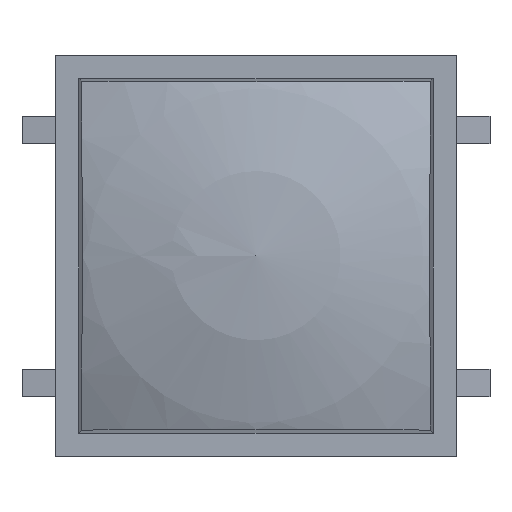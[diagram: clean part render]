
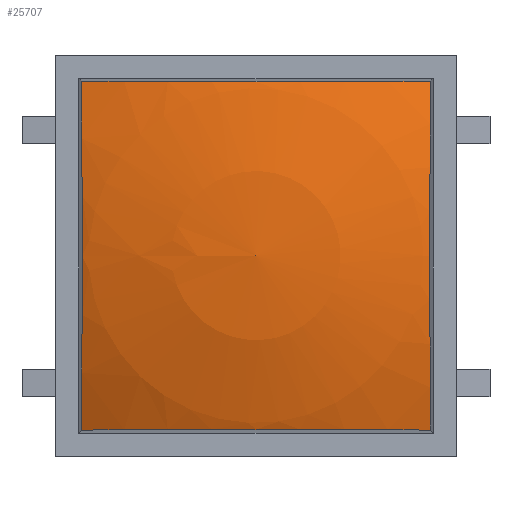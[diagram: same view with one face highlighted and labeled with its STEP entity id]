
A CAD part, top view. The second image highlights one B-rep face of the part: STEP entity #25707.
In plain terms, the highlighted spherical face has radius 17.5 mm.
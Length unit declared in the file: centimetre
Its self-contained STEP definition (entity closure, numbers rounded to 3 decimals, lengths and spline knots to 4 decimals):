
#323=SPHERICAL_SURFACE($,#27105,1.75);
#1315=FACE_OUTER_BOUND($,#2653,.T.);
#2653=EDGE_LOOP($,(#16099,#16100,#16101,#16102));
#4049=CIRCLE($,#27026,1.6609);
#4079=CIRCLE($,#27100,1.6609);
#4080=CIRCLE($,#27102,1.6609);
#4081=CIRCLE($,#27104,1.6609);
#9618=VERTEX_POINT($,#35403);
#9619=VERTEX_POINT($,#35405);
#9719=VERTEX_POINT($,#36427);
#9720=VERTEX_POINT($,#36429);
#12099=EDGE_CURVE($,#9618,#9619,#4049,.T.);
#12234=EDGE_CURVE($,#9719,#9720,#4079,.T.);
#12236=EDGE_CURVE($,#9720,#9618,#4080,.T.);
#12237=EDGE_CURVE($,#9619,#9719,#4081,.T.);
#16099=ORIENTED_EDGE($,*,*,#12234,.F.);
#16100=ORIENTED_EDGE($,*,*,#12237,.F.);
#16101=ORIENTED_EDGE($,*,*,#12099,.F.);
#16102=ORIENTED_EDGE($,*,*,#12236,.F.);
#25707=ADVANCED_FACE($,(#1315),#323,.T.);
#27026=AXIS2_PLACEMENT_3D($,#35406,#29008,#29009);
#27100=AXIS2_PLACEMENT_3D($,#36430,#29197,#29198);
#27102=AXIS2_PLACEMENT_3D($,#36433,#29202,#29203);
#27104=AXIS2_PLACEMENT_3D($,#36435,#29206,#29207);
#27105=AXIS2_PLACEMENT_3D($,#36436,#29208,#29209);
#29008=DIRECTION('center_axis',(0.,1.,
0.017));
#29009=DIRECTION('ref_axis',(0.,0.017,-1.));
#29197=DIRECTION('center_axis',(0.,-1.,
0.017));
#29198=DIRECTION('ref_axis',(0.,0.017,
1.));
#29202=DIRECTION('center_axis',(-1.,0.,
0.017));
#29203=DIRECTION('ref_axis',(-0.017,0.,
-1.));
#29206=DIRECTION('center_axis',(1.,0.,
0.017));
#29207=DIRECTION('ref_axis',(-0.017,0.,
1.));
#29208=DIRECTION('center_axis',(0.,0.,
1.));
#29209=DIRECTION('ref_axis',(-1.,0.,0.));
#35403=CARTESIAN_POINT('',(-0.5236,0.5236,1.3406));
#35405=CARTESIAN_POINT('',(0.5236,0.5236,1.3406));
#35406=CARTESIAN_POINT('Origin',(0.,0.5511,
-0.2354));
#36427=CARTESIAN_POINT('',(0.5236,-0.5236,1.3406));
#36429=CARTESIAN_POINT('',(-0.5236,-0.5236,1.3406));
#36430=CARTESIAN_POINT('Origin',(0.,-0.5511,
-0.2354));
#36433=CARTESIAN_POINT('Origin',(-0.5511,0.,
-0.2354));
#36435=CARTESIAN_POINT('Origin',(0.5511,0.,
-0.2354));
#36436=CARTESIAN_POINT('Origin',(0.,0.,
-0.245));
